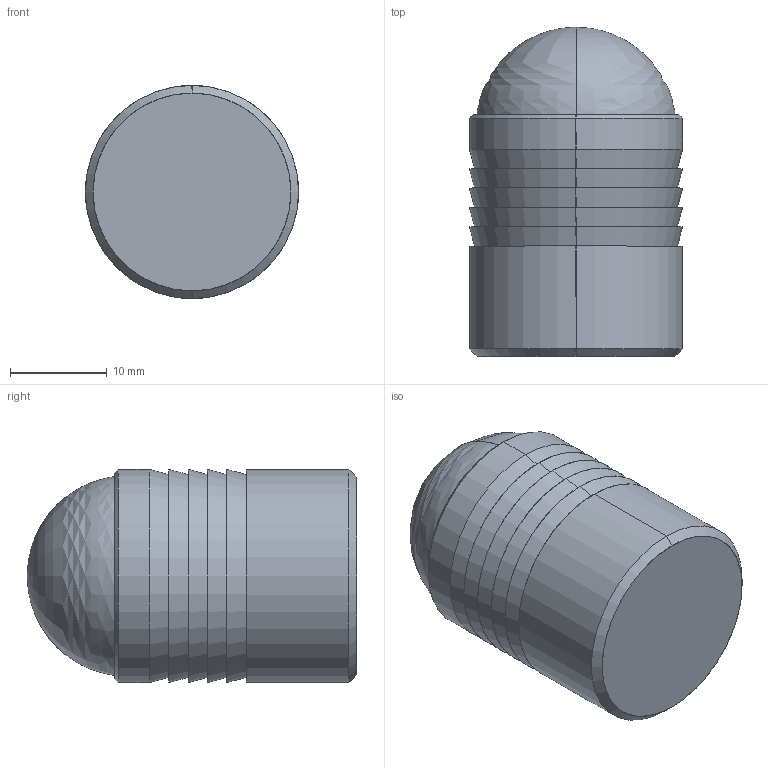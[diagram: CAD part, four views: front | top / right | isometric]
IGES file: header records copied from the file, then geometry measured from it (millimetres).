
Start section: SolidWorks IGES file using analytic representation for surfaces
Global section: file name: C:\Users\IanO\Desktop\P0190_v2\P0190_v2_20230321_IGES\P0190.220-A2-A2.igs; native system: SolidWorks 2019; preprocessor: SolidWorks 2019; author: IanO; date: 231219.161713; units: millimetre
Bounding box: 22 x 34 x 22 mm (x, y, z)
Surface area: 4308.8 mm2 (no closed solid volume)
Topology: 0 solids, 0 shells, 29 faces, 504 edges, 502 vertices
Faces by surface type: revolution 22, bspline 7
